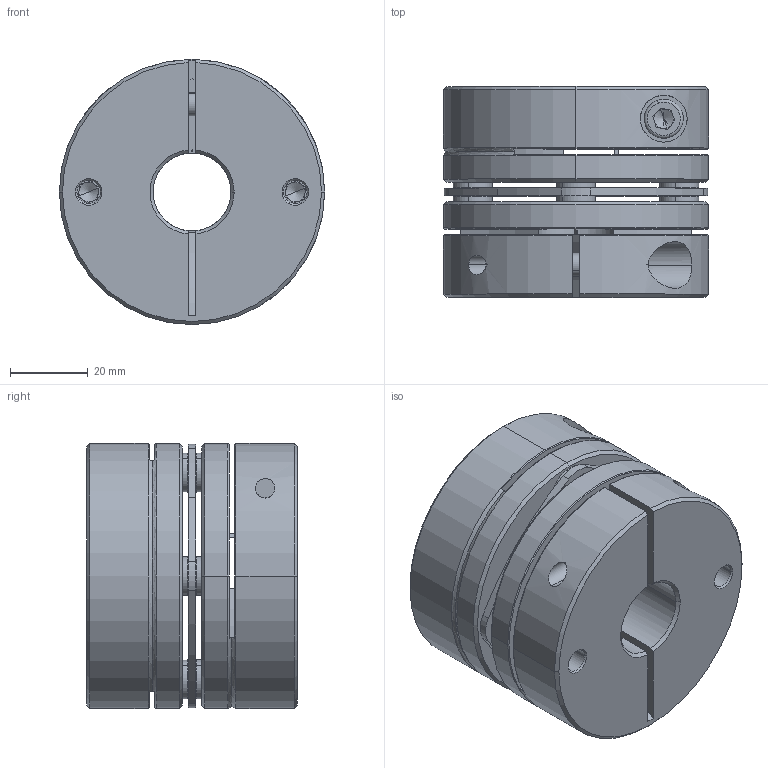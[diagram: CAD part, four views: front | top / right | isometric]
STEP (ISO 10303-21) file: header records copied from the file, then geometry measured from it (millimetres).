
FILE_DESCRIPTION (( 'STEP AP203' ), '1' );
FILE_NAME ('LD1-D68-20-20.STEP', '2021-10-26T07:57:08', ( '' ), ( '' ), 'SwSTEP 2.0', 'SolidWorks 2018', '' );
FILE_SCHEMA (( 'CONFIG_CONTROL_DESIGN' ));
Length unit declared in the file: millimetre
Products named in the file (2): LD1-D68-20-20; 錨璃101^LD1-D68
Assembly tree (1 placements, depth 2):
  LD1-D68-20-20
    錨璃101^LD1-D68
Bounding box: 68 x 54 x 68 mm (x, y, z)
Volume: 151010.4 mm3; surface area: 46876.4 mm2
Topology: 1 solids, 15 shells, 449 faces, 1071 edges, 658 vertices
Faces by surface type: cylinder 165, plane 140, cone 122, torus 22
Entity records: 13597 total; most frequent: CARTESIAN_POINT 2632, DIRECTION 2461, ORIENTED_EDGE 2110, EDGE_CURVE 1055, AXIS2_PLACEMENT_3D 999, VERTEX_POINT 658, CIRCLE 546, EDGE_LOOP 529
